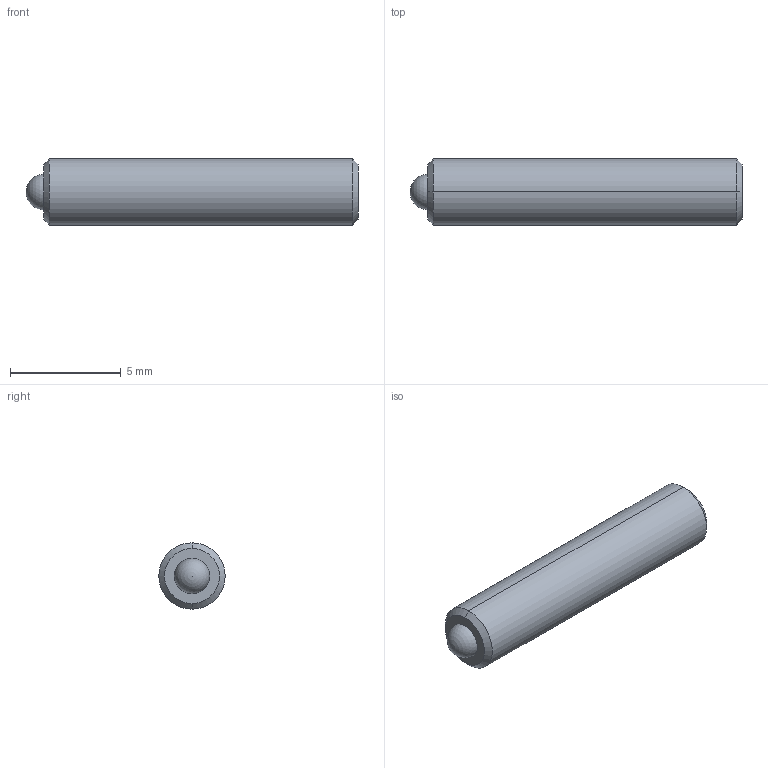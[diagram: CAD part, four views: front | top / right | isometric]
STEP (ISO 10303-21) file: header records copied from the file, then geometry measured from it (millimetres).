
FILE_DESCRIPTION (( 'STEP AP214' ), '1' );
FILE_NAME ('TS3-20-15.STEP', '2013-02-13T16:20:48', ( 'workpc' ), ( 'Microsoft' ), 'SwSTEP 2.0', 'SolidWorks 2013', '' );
FILE_SCHEMA (( 'AUTOMOTIVE_DESIGN' ));
Length unit declared in the file: millimetre
Products named in the file (1): TS3-20-15
Bounding box: 15 x 3 x 3 mm (x, y, z)
Volume: 96.4 mm3; surface area: 167.5 mm2
Topology: 2 solids, 2 shells, 20 faces, 45 edges, 29 vertices
Faces by surface type: plane 10, cylinder 4, cone 4, sphere 2
Entity records: 587 total; most frequent: DIRECTION 96, CARTESIAN_POINT 87, ORIENTED_EDGE 80, EDGE_CURVE 40, AXIS2_PLACEMENT_3D 35, VERTEX_POINT 26, LINE 26, VECTOR 26
